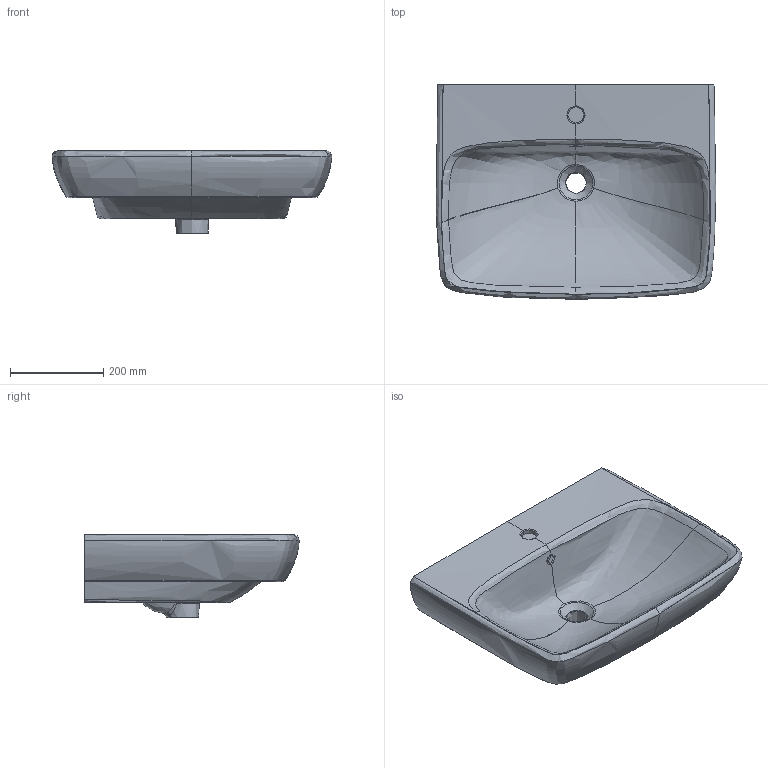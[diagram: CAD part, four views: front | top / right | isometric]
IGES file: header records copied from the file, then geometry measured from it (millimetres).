
Global section: file name: 500300; native system: Autodesk Inventor 2018; preprocessor: unknown; author: JANAN; date: 20200501.052508; units: millimetre
Bounding box: 599.77 x 460 x 180 mm (x, y, z)
Volume: 18565122.6 mm3; surface area: 829809.6 mm2
Topology: 1 solids, 1 shells, 90 faces, 235 edges, 147 vertices
Faces by surface type: bspline 90
